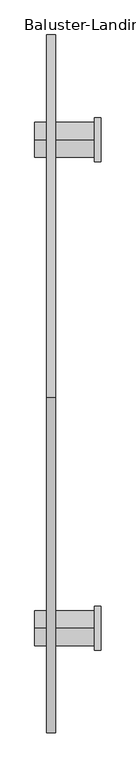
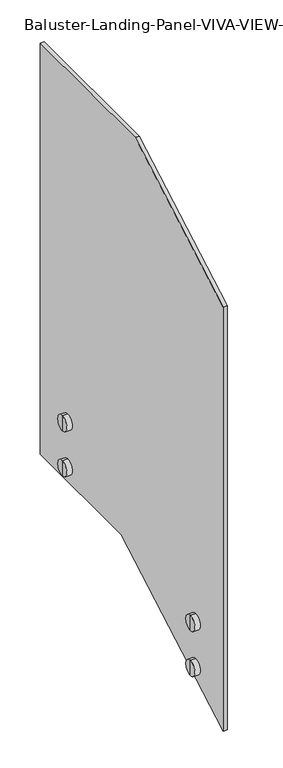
"""IFC4 building model written with IfcOpenShell, lengths in millimetres: railing geometry, Baluster-Landing-Panel-VIVA-VIEW-Lower : Standard_Glass Plate."""

import ifcopenshell
import ifcopenshell.guid

model = None  # the IFC model being written
_history = None  # IfcOwnerHistory: only IFC2X3 demands one
_inside = {}  # id of a spatial element -> (the spatial element, [elements in it])
_under = {}  # id of a project, library or spatial element -> (it, [spatial elements below it])
_declared = {}  # id of a project -> (the project, [libraries it declares])
_typed = {}  # id of a type object -> (the type object, [elements of that type])
_made_of = {}  # id of a material, layer set ... -> (it, [elements and type objects made of it])


def new_model(schema):
    """Start an empty IFC model of exactly this schema.

    Asked for "IFC4X3", IfcOpenShell would pick the latest addendum, in which some entities
    have other attributes; the version numbers below select the first issue.
    IFC2X3 requires an IfcOwnerHistory on every rooted entity: one is made here for all.
    """
    global model, _history
    if schema == "IFC4X3":
        model = ifcopenshell.file(schema_version=(4, 3, 0, 0))
    else:
        model = ifcopenshell.file(schema=schema)
    _inside.clear()
    _under.clear()
    _declared.clear()
    _typed.clear()
    _made_of.clear()
    _history = None
    if model.schema == "IFC2X3":
        org = make("IfcOrganization", Name="unknown")
        user = make(
            "IfcPersonAndOrganization",
            ThePerson=make("IfcPerson", FamilyName="unknown"),
            TheOrganization=org,
        )
        app = make(
            "IfcApplication",
            ApplicationDeveloper=org,
            Version="unknown",
            ApplicationFullName="unknown",
            ApplicationIdentifier="unknown",
        )
        _history = make(
            "IfcOwnerHistory",
            OwningUser=user,
            OwningApplication=app,
            ChangeAction="ADDED",
            CreationDate=0,
        )
    return model


def make(cls, **values):
    """One entity of the class cls with the attributes given. An attribute that is None is left unset."""
    return model.create_entity(
        cls, **{name: value for name, value in values.items() if value is not None}
    )


def rooted(cls, **values):
    """An entity with a GlobalId (a new one), such as an element, a storey or a relation."""
    return make(cls, GlobalId=ifcopenshell.guid.new(), OwnerHistory=_history, **values)


def si_unit(unit_type, name, prefix=None):
    """IfcSIUnit, for example si_unit("LENGTHUNIT", "METRE", prefix="MILLI")."""
    return make("IfcSIUnit", UnitType=unit_type, Prefix=prefix, Name=name)


def assignment(units):
    """IfcUnitAssignment: the units of a project."""
    return None if units is None else make("IfcUnitAssignment", Units=units)


def point(xyz):
    """IfcCartesianPoint."""
    return None if xyz is None else make("IfcCartesianPoint", Coordinates=xyz)


def direction(xyz):
    """IfcDirection."""
    return None if xyz is None else make("IfcDirection", DirectionRatios=xyz)


def frame(location, z_axis=None, x_axis=None):
    """IfcAxis2Placement3D, a coordinate frame: its origin and axes. An axis left out is left unset."""
    return make(
        "IfcAxis2Placement3D",
        Location=point(location),
        Axis=direction(z_axis),
        RefDirection=direction(x_axis),
    )


def frame_2d(location, x_axis=None):
    """IfcAxis2Placement2D, a coordinate frame in the plane: its origin and x axis."""
    return make(
        "IfcAxis2Placement2D", Location=point(location), RefDirection=direction(x_axis)
    )


def origin():
    """The frame at (0, 0, 0) with its axes left unset."""
    return frame((0.0, 0.0, 0.0))


def place(relative_to, where):
    """IfcLocalPlacement: puts the frame where relative to a parent placement (None: the world)."""
    return make(
        "IfcLocalPlacement", PlacementRelTo=relative_to, RelativePlacement=where
    )


def context(
    kind, dimensions, precision=None, world=None, true_north=None, identifier=None
):
    """IfcGeometricRepresentationContext, for example the 3D "Model" context."""
    return make(
        "IfcGeometricRepresentationContext",
        ContextIdentifier=identifier,
        ContextType=kind,
        CoordinateSpaceDimension=dimensions,
        Precision=precision,
        WorldCoordinateSystem=world,
        TrueNorth=true_north,
    )


def project(units=None, contexts=None):
    """IfcProject with its units and contexts."""
    return rooted(
        "IfcProject",
        Name="project",
        RepresentationContexts=contexts,
        UnitsInContext=assignment(units),
    )


def spatial(cls, under=None, at=None, **own):
    """A site, building, storey or space (cls), placed at a placement, below another one or the project."""
    s = rooted(cls, ObjectPlacement=at, **own)
    if under is not None:
        _under.setdefault(under.id(), (under, []))[1].append(s)
    return s


def polyline(points):
    """IfcPolyline through the points."""
    return make("IfcPolyline", Points=[point(p) for p in points])


def circle_curve(where, radius):
    """IfcCircle in the frame where."""
    return make("IfcCircle", Position=where, Radius=radius)


def trimmed(basis, trim1, trim2, sense, master):
    """IfcTrimmedCurve: the piece of a basis curve between two trims."""
    return make(
        "IfcTrimmedCurve",
        BasisCurve=basis,
        Trim1=trim1,
        Trim2=trim2,
        SenseAgreement=sense,
        MasterRepresentation=master,
    )


def segment(curve, same_sense, transition):
    """IfcCompositeCurveSegment."""
    return make(
        "IfcCompositeCurveSegment",
        Transition=transition,
        SameSense=same_sense,
        ParentCurve=curve,
    )


def composite_curve(segments, self_intersect=None):
    """IfcCompositeCurve: segments joined end to end."""
    return make("IfcCompositeCurve", Segments=segments, SelfIntersect=self_intersect)


def outline(outer, holes=None, kind="AREA"):
    """IfcArbitraryClosedProfileDef: a profile drawn as a closed curve; with holes, ...WithVoids."""
    if holes is None:
        return make("IfcArbitraryClosedProfileDef", ProfileType=kind, OuterCurve=outer)
    return make(
        "IfcArbitraryProfileDefWithVoids",
        ProfileType=kind,
        OuterCurve=outer,
        InnerCurves=holes,
    )


def extrude(swept, where, along, depth):
    """IfcExtrudedAreaSolid: the profile swept, set in the frame where, extruded along a direction by depth."""
    return make(
        "IfcExtrudedAreaSolid",
        SweptArea=swept,
        Position=where,
        ExtrudedDirection=direction(along),
        Depth=depth,
    )


def shape(context_of_items, identifier, shape_type, items):
    """IfcShapeRepresentation: the items that make up one representation, for example the "Body"."""
    return make(
        "IfcShapeRepresentation",
        ContextOfItems=context_of_items,
        RepresentationIdentifier=identifier,
        RepresentationType=shape_type,
        Items=items,
    )


def source(mapping_origin, context_of_items, identifier, shape_type, items):
    """IfcRepresentationMap: a shape defined once, which mapped items show again and again."""
    return make(
        "IfcRepresentationMap",
        MappingOrigin=mapping_origin,
        MappedRepresentation=shape(context_of_items, identifier, shape_type, items),
    )


def transform(
    local_origin,
    x_axis=None,
    y_axis=None,
    z_axis=None,
    scale=None,
    scale2=None,
    scale3=None,
    uniform=True,
):
    """IfcCartesianTransformationOperator3D, or its non-uniform kind. x_axis, y_axis, z_axis: its Axis1, 2, 3."""
    if uniform:
        return make(
            "IfcCartesianTransformationOperator3D",
            Axis1=direction(x_axis),
            Axis2=direction(y_axis),
            LocalOrigin=point(local_origin),
            Scale=scale,
            Axis3=direction(z_axis),
        )
    return make(
        "IfcCartesianTransformationOperator3DnonUniform",
        Axis1=direction(x_axis),
        Axis2=direction(y_axis),
        LocalOrigin=point(local_origin),
        Scale=scale,
        Axis3=direction(z_axis),
        Scale2=scale2,
        Scale3=scale3,
    )


def mapped(mapping_source, mapping_target):
    """IfcMappedItem: shows the shape of a source again, moved by a transform."""
    return make(
        "IfcMappedItem", MappingSource=mapping_source, MappingTarget=mapping_target
    )


def made_of(thing, what):
    """Note that an element or type object is made of a material, layer set ...; save() writes the relation."""
    if what is not None:
        _made_of.setdefault(what.id(), (what, []))[1].append(thing)
    return thing


def element(
    cls,
    number,
    at=None,
    inside=None,
    cuts=None,
    type_object=None,
    material=None,
    context=None,
    identifier="Body",
    shape_type=None,
    held_by="IfcProductDefinitionShape",
    body=None,
    shapes=None,
    **own,
):
    """One element of the class cls, such as IfcWall. Its Tag is "e" and its number.

    at: its placement. inside: the storey or other place that contains it. cuts: it is an
    opening in that element (IfcRelVoidsElement). A single representation is given by context,
    identifier, shape_type and body (its items); several are given by shapes. held_by: the class
    of the entity that holds the representations. save() writes the other relations.
    """
    e = rooted(cls, Tag="e%d" % number, ObjectPlacement=at, **own)
    if body is not None:
        shapes = [shape(context, identifier, shape_type, body)]
    if shapes is not None:
        e.Representation = make(held_by, Representations=shapes)
    if inside is not None:
        _inside.setdefault(inside.id(), (inside, []))[1].append(e)
    if cuts is not None:
        rooted(
            "IfcRelVoidsElement", RelatingBuildingElement=cuts, RelatedOpeningElement=e
        )
    if type_object is not None:
        _typed.setdefault(type_object.id(), (type_object, []))[1].append(e)
    return made_of(e, material)


def aggregate(whole, parts):
    """IfcRelAggregates: a whole, such as a stair, and the parts it consists of."""
    return rooted("IfcRelAggregates", RelatingObject=whole, RelatedObjects=parts)


def save(model, path):
    """Write the relations noted so far, then the file.

    IfcRelAggregates (storeys below a building ...), IfcRelContainedInSpatialStructure (elements
    in a storey), IfcRelDefinesByType, IfcRelAssociatesMaterial and IfcRelDeclares: one each for
    every whole, place, type object, material and project.
    """
    for whole, parts in _under.values():
        aggregate(whole, parts)
    for where, things in _inside.values():
        rooted(
            "IfcRelContainedInSpatialStructure",
            RelatedElements=things,
            RelatingStructure=where,
        )
    for kind, things in _typed.values():
        rooted("IfcRelDefinesByType", RelatedObjects=things, RelatingType=kind)
    for what, things in _made_of.values():
        rooted("IfcRelAssociatesMaterial", RelatedObjects=things, RelatingMaterial=what)
    for by, libraries in _declared.values():
        rooted("IfcRelDeclares", RelatingContext=by, RelatedDefinitions=libraries)
    model.write(path)


def plane_surface(at):
    """IfcPlane: the flat surface through the origin of the frame at, square to its z axis."""
    return make("IfcPlane", Position=at)


def cylinder_surface(at, radius):
    """IfcCylindricalSurface: all points at the distance radius from the z axis of the frame at."""
    return make("IfcCylindricalSurface", Position=at, Radius=radius)


def advanced_brep(points, edges, surfaces, faces):
    """IfcAdvancedBrep: a solid bounded by faces that lie on surfaces and meet in shared edges.

    An edge is (start, end): straight between two places in points (the first is 0);
    or (start, end, curve); or (start, end, curve, False) where it runs against its curve.
    A face is (place in surfaces, loops), or (place, loops, False) where it looks against
    its surface's normal. A loop lists edges by number (the first is 1), with a minus sign
    where the edge is run from its end to its start. The first loop is the outer one.
    """
    corners = [point(p) for p in points]
    vertices = [make("IfcVertexPoint", VertexGeometry=c) for c in corners]
    made = []
    for start, end, *more in edges:
        made.append(
            make(
                "IfcEdgeCurve",
                EdgeStart=vertices[start],
                EdgeEnd=vertices[end],
                EdgeGeometry=more[0] if more else make("IfcPolyline", Points=[corners[start], corners[end]]),
                SameSense=more[1] if len(more) > 1 else True,
            )
        )
    hull = []
    for where, loops, *sense in faces:
        bounds = []
        for j, loop in enumerate(loops):
            ring = [make("IfcOrientedEdge", EdgeElement=made[abs(k) - 1], Orientation=k > 0) for k in loop]
            bounds.append(
                make(
                    "IfcFaceOuterBound" if j == 0 else "IfcFaceBound",
                    Bound=make("IfcEdgeLoop", EdgeList=ring),
                    Orientation=True,
                )
            )
        hull.append(make("IfcAdvancedFace", Bounds=bounds, FaceSurface=surfaces[where], SameSense=sense[0] if sense else True))
    return make("IfcAdvancedBrep", Outer=make("IfcClosedShell", CfsFaces=hull))


def baluster_landing_panel_viva_view_lower_standard_glass_plate_9cf8be22(model_context):
    return source(origin(), model_context, "Body", "SolidModel", [
        advanced_brep(
        [(15.875, 147.3891207, -546.0690625), (15.875, 147.3891207, -495.2690625), (15.875, 147.3891207, -520.6690625), (33.3375, 147.3891207, -546.0690625), (33.3375, 147.3891207, -495.2690625), (33.3375, 147.3891207, -526.3840625), (33.3375, 147.3891207, -514.9540625), (46.0375, 147.3891207, -526.3840625), (46.0375, 147.3891207, -514.9540625), (46.0375, 147.3891207, -546.0690625), (46.0375, 147.3891207, -495.2690625), (103.187353, 147.3891207, -546.0690625), (103.187353, 147.3891207, -495.2690625), (103.187353, 147.3891207, -520.6690625)],
        [
            (0, 1, circle_curve(frame((15.875, 147.3891207, -520.6690625), z_axis=(-1.0, 0.0, 0.0), x_axis=(0.0, 0.0, 1.0)), 25.4)),
            (1, 2),
            (2, 0),
            (1, 0, circle_curve(frame((15.875, 147.3891207, -520.6690625), z_axis=(-1.0, 0.0, 0.0), x_axis=(0.0, 0.0, 1.0)), 25.4)),
            (3, 4, circle_curve(frame((33.3375, 147.3891207, -520.6690625), z_axis=(-1.0, 0.0, 0.0), x_axis=(0.0, 0.0, 1.0)), 25.4)),
            (4, 1),
            (0, 3),
            (4, 3, circle_curve(frame((33.3375, 147.3891207, -520.6690625), z_axis=(-1.0, 0.0, 0.0), x_axis=(0.0, 0.0, 1.0)), 25.4)),
            (5, 6, circle_curve(frame((33.3375, 147.3891207, -520.6690625), z_axis=(-1.0, 0.0, 0.0), x_axis=(0.0, 0.0, 1.0)), 5.715)),
            (6, 4),
            (3, 5),
            (6, 5, circle_curve(frame((33.3375, 147.3891207, -520.6690625), z_axis=(-1.0, 0.0, 0.0), x_axis=(0.0, 0.0, 1.0)), 5.715)),
            (7, 8, circle_curve(frame((46.0375, 147.3891207, -520.6690625), z_axis=(-1.0, 0.0, 0.0), x_axis=(0.0, 0.0, 1.0)), 5.715)),
            (8, 6),
            (5, 7),
            (8, 7, circle_curve(frame((46.0375, 147.3891207, -520.6690625), z_axis=(-1.0, 0.0, 0.0), x_axis=(0.0, 0.0, 1.0)), 5.715)),
            (9, 10, circle_curve(frame((46.0375, 147.3891207, -520.6690625), z_axis=(-1.0, 0.0, 0.0), x_axis=(0.0, 0.0, 1.0)), 25.4)),
            (10, 8),
            (7, 9),
            (10, 9, circle_curve(frame((46.0375, 147.3891207, -520.6690625), z_axis=(-1.0, 0.0, 0.0), x_axis=(0.0, 0.0, 1.0)), 25.4)),
            (11, 12, circle_curve(frame((103.187353, 147.3891207, -520.6690625), z_axis=(-1.0, 0.0, 0.0), x_axis=(0.0, 0.0, 1.0)), 25.4)),
            (12, 10),
            (9, 11),
            (12, 11, circle_curve(frame((103.187353, 147.3891207, -520.6690625), z_axis=(-1.0, 0.0, 0.0), x_axis=(0.0, 0.0, 1.0)), 25.4)),
            (13, 12),
            (11, 13),
        ],
        [
            plane_surface(frame((15.875, 147.3891207, -520.6690625), z_axis=(-1.0, 0.0, 0.0), x_axis=(0.0, 0.0, 1.0))),
            cylinder_surface(frame((-52.387647, 147.3891207, -520.6690625), z_axis=(1.0, 0.0, 0.0), x_axis=(0.0, 0.0, 1.0)), 25.4),
            plane_surface(frame((33.3375, 147.3891207, -520.6690625), z_axis=(1.0, 0.0, 0.0), x_axis=(0.0, 0.0, 1.0))),
            cylinder_surface(frame((-52.387647, 147.3891207, -520.6690625), z_axis=(1.0, 0.0, 0.0), x_axis=(0.0, 0.0, 1.0)), 5.715),
            plane_surface(frame((46.0375, 147.3891207, -520.6690625), z_axis=(-1.0, 0.0, 0.0), x_axis=(0.0, 0.0, 1.0))),
            plane_surface(frame((103.187353, 147.3891207, -520.6690625), z_axis=(1.0, 0.0, 0.0), x_axis=(0.0, 0.0, 1.0))),
        ],
        [
            (0, [[1, 2, 3]]),
            (0, [[4, -3, -2]]),
            (1, [[5, 6, -1, 7]]),
            (1, [[8, -7, -4, -6]]),
            (2, [[9, 10, -5, 11]]),
            (2, [[12, -11, -8, -10]]),
            (3, [[13, 14, -9, 15]]),
            (3, [[16, -15, -12, -14]]),
            (4, [[17, 18, -13, 19]]),
            (4, [[20, -19, -16, -18]]),
            (1, [[21, 22, -17, 23]]),
            (1, [[24, -23, -20, -22]]),
            (5, [[25, -21, 26]]),
            (5, [[-26, -24, -25]]),
        ],
    ),
        advanced_brep(
        [(33.3375, 147.3891207, -373.9840625), (33.3375, 147.3891207, -362.5540625), (33.3375, 147.3891207, -342.8690625), (33.3375, 147.3891207, -393.6690625), (46.0375, 147.3891207, -373.9840625), (46.0375, 147.3891207, -362.5540625), (46.0375, 147.3891207, -393.6690625), (46.0375, 147.3891207, -342.8690625), (103.187353, 147.3891207, -393.6690625), (103.187353, 147.3891207, -342.8690625), (103.187353, 147.3891207, -368.2690625), (15.875, 147.3891207, -393.6690625), (15.875, 147.3891207, -342.8690625), (15.875, 147.3891207, -368.2690625)],
        [
            (0, 1, circle_curve(frame((33.3375, 147.3891207, -368.2690625), z_axis=(-1.0, 0.0, 0.0), x_axis=(0.0, 0.0, 1.0)), 5.715)),
            (1, 2),
            (2, 3, circle_curve(frame((33.3375, 147.3891207, -368.2690625), z_axis=(1.0, 0.0, 0.0), x_axis=(0.0, 0.0, 1.0)), 25.4)),
            (3, 0),
            (1, 0, circle_curve(frame((33.3375, 147.3891207, -368.2690625), z_axis=(-1.0, 0.0, 0.0), x_axis=(0.0, 0.0, 1.0)), 5.715)),
            (3, 2, circle_curve(frame((33.3375, 147.3891207, -368.2690625), z_axis=(1.0, 0.0, 0.0), x_axis=(0.0, 0.0, 1.0)), 25.4)),
            (4, 5, circle_curve(frame((46.0375, 147.3891207, -368.2690625), z_axis=(-1.0, 0.0, 0.0), x_axis=(0.0, 0.0, 1.0)), 5.715)),
            (5, 1),
            (0, 4),
            (5, 4, circle_curve(frame((46.0375, 147.3891207, -368.2690625), z_axis=(-1.0, 0.0, 0.0), x_axis=(0.0, 0.0, 1.0)), 5.715)),
            (6, 7, circle_curve(frame((46.0375, 147.3891207, -368.2690625), z_axis=(-1.0, 0.0, 0.0), x_axis=(0.0, 0.0, 1.0)), 25.4)),
            (7, 5),
            (4, 6),
            (7, 6, circle_curve(frame((46.0375, 147.3891207, -368.2690625), z_axis=(-1.0, 0.0, 0.0), x_axis=(0.0, 0.0, 1.0)), 25.4)),
            (8, 9, circle_curve(frame((103.187353, 147.3891207, -368.2690625), z_axis=(-1.0, 0.0, 0.0), x_axis=(0.0, 0.0, 1.0)), 25.4)),
            (9, 7),
            (6, 8),
            (9, 8, circle_curve(frame((103.187353, 147.3891207, -368.2690625), z_axis=(-1.0, 0.0, 0.0), x_axis=(0.0, 0.0, 1.0)), 25.4)),
            (10, 9),
            (8, 10),
            (11, 12, circle_curve(frame((15.875, 147.3891207, -368.2690625), z_axis=(-1.0, 0.0, 0.0), x_axis=(0.0, 0.0, 1.0)), 25.4)),
            (12, 13),
            (13, 11),
            (12, 11, circle_curve(frame((15.875, 147.3891207, -368.2690625), z_axis=(-1.0, 0.0, 0.0), x_axis=(0.0, 0.0, 1.0)), 25.4)),
            (2, 12),
            (11, 3),
        ],
        [
            plane_surface(frame((33.3375, 147.3891207, -368.2690625), z_axis=(1.0, 0.0, 0.0), x_axis=(0.0, 0.0, 1.0))),
            cylinder_surface(frame((-52.387647, 147.3891207, -368.2690625), z_axis=(1.0, 0.0, 0.0), x_axis=(0.0, 0.0, 1.0)), 5.715),
            plane_surface(frame((46.0375, 147.3891207, -368.2690625), z_axis=(-1.0, 0.0, 0.0), x_axis=(0.0, 0.0, 1.0))),
            cylinder_surface(frame((-52.387647, 147.3891207, -368.2690625), z_axis=(1.0, 0.0, 0.0), x_axis=(0.0, 0.0, 1.0)), 25.4),
            plane_surface(frame((103.187353, 147.3891207, -368.2690625), z_axis=(1.0, 0.0, 0.0), x_axis=(0.0, 0.0, 1.0))),
            plane_surface(frame((15.875, 147.3891207, -368.2690625), z_axis=(-1.0, 0.0, 0.0), x_axis=(0.0, 0.0, 1.0))),
        ],
        [
            (0, [[1, 2, 3, 4]]),
            (0, [[5, -4, 6, -2]]),
            (1, [[7, 8, -1, 9]]),
            (1, [[10, -9, -5, -8]]),
            (2, [[11, 12, -7, 13]]),
            (2, [[14, -13, -10, -12]]),
            (3, [[15, 16, -11, 17]]),
            (3, [[18, -17, -14, -16]]),
            (4, [[19, -15, 20]]),
            (4, [[-20, -18, -19]]),
            (5, [[21, 22, 23]]),
            (5, [[24, -23, -22]]),
            (3, [[-3, 25, -21, 26]]),
            (3, [[-6, -26, -24, -25]]),
        ],
    ),
        extrude(outline(composite_curve([segment(polyline([(179.1391207, -368.2690625), (179.1391207, -520.6690625)]), True, "CONTINUOUS"), segment(trimmed(circle_curve(frame_2d((147.3891207, -520.6690625)), 31.75), [point((179.1391207, -520.6690625))], [point((115.6391207, -520.6690625))], False, "CARTESIAN"), True, "CONTINUOUS"), segment(polyline([(115.6391207, -520.6690625), (115.6391207, -368.2690625)]), True, "CONTINUOUS"), segment(trimmed(circle_curve(frame_2d((147.3891207, -368.2690625)), 31.75), [point((115.6391207, -368.2690625))], [point((179.1391207, -368.2690625))], False, "CARTESIAN"), True, "CONTINUOUS")], self_intersect=False)), frame((103.187353, 0.0, 0.0), z_axis=(1.0, 0.0, 0.0), x_axis=(0.0, 1.0, 0.0)), (0.0, 0.0, 1.0), 9.525),
        advanced_brep(
        [(15.875, 858.1688714, -300.2438244), (15.875, 858.1688714, -274.8438244), (15.875, 858.1688714, -249.4438244), (33.3375, 858.1688714, -300.2438244), (33.3375, 858.1688714, -249.4438244), (33.3375, 858.1688714, -280.5588244), (33.3375, 858.1688714, -269.1288244), (46.0375, 858.1688714, -280.5588244), (46.0375, 858.1688714, -269.1288244), (46.0375, 858.1688714, -300.2438244), (46.0375, 858.1688714, -249.4438244), (103.187353, 858.1688714, -300.2438244), (103.187353, 858.1688714, -249.4438244), (103.187353, 858.1688714, -274.8438244)],
        [
            (0, 1),
            (1, 2),
            (2, 0, circle_curve(frame((15.875, 858.1688714, -274.8438244), z_axis=(-1.0, 0.0, 0.0), x_axis=(0.0, 0.0, 1.0)), 25.4)),
            (0, 2, circle_curve(frame((15.875, 858.1688714, -274.8438244), z_axis=(-1.0, 0.0, 0.0), x_axis=(0.0, 0.0, 1.0)), 25.4)),
            (3, 0),
            (2, 4),
            (4, 3, circle_curve(frame((33.3375, 858.1688714, -274.8438244), z_axis=(-1.0, 0.0, 0.0), x_axis=(0.0, 0.0, 1.0)), 25.4)),
            (3, 4, circle_curve(frame((33.3375, 858.1688714, -274.8438244), z_axis=(-1.0, 0.0, 0.0), x_axis=(0.0, 0.0, 1.0)), 25.4)),
            (5, 3),
            (4, 6),
            (6, 5, circle_curve(frame((33.3375, 858.1688714, -274.8438244), z_axis=(-1.0, 0.0, 0.0), x_axis=(0.0, 0.0, 1.0)), 5.715)),
            (5, 6, circle_curve(frame((33.3375, 858.1688714, -274.8438244), z_axis=(-1.0, 0.0, 0.0), x_axis=(0.0, 0.0, 1.0)), 5.715)),
            (7, 5),
            (6, 8),
            (8, 7, circle_curve(frame((46.0375, 858.1688714, -274.8438244), z_axis=(-1.0, 0.0, 0.0), x_axis=(0.0, 0.0, 1.0)), 5.715)),
            (7, 8, circle_curve(frame((46.0375, 858.1688714, -274.8438244), z_axis=(-1.0, 0.0, 0.0), x_axis=(0.0, 0.0, 1.0)), 5.715)),
            (9, 7),
            (8, 10),
            (10, 9, circle_curve(frame((46.0375, 858.1688714, -274.8438244), z_axis=(-1.0, 0.0, 0.0), x_axis=(0.0, 0.0, 1.0)), 25.4)),
            (9, 10, circle_curve(frame((46.0375, 858.1688714, -274.8438244), z_axis=(-1.0, 0.0, 0.0), x_axis=(0.0, 0.0, 1.0)), 25.4)),
            (11, 9),
            (10, 12),
            (12, 11, circle_curve(frame((103.187353, 858.1688714, -274.8438244), z_axis=(-1.0, 0.0, 0.0), x_axis=(0.0, 0.0, 1.0)), 25.4)),
            (11, 12, circle_curve(frame((103.187353, 858.1688714, -274.8438244), z_axis=(-1.0, 0.0, 0.0), x_axis=(0.0, 0.0, 1.0)), 25.4)),
            (13, 11),
            (12, 13),
        ],
        [
            plane_surface(frame((15.875, 858.1688714, -274.8438244), z_axis=(-1.0, 0.0, 0.0), x_axis=(0.0, 0.0, 1.0))),
            cylinder_surface(frame((-52.387647, 858.1688714, -274.8438244), z_axis=(1.0, 0.0, 0.0), x_axis=(0.0, 0.0, 1.0)), 25.4),
            plane_surface(frame((33.3375, 858.1688714, -274.8438244), z_axis=(1.0, 0.0, 0.0), x_axis=(0.0, 0.0, 1.0))),
            cylinder_surface(frame((-52.387647, 858.1688714, -274.8438244), z_axis=(1.0, 0.0, 0.0), x_axis=(0.0, 0.0, 1.0)), 5.715),
            plane_surface(frame((46.0375, 858.1688714, -274.8438244), z_axis=(-1.0, 0.0, 0.0), x_axis=(0.0, 0.0, 1.0))),
            plane_surface(frame((103.187353, 858.1688714, -274.8438244), z_axis=(1.0, 0.0, 0.0), x_axis=(0.0, 0.0, 1.0))),
        ],
        [
            (0, [[1, 2, 3]]),
            (0, [[-2, -1, 4]]),
            (1, [[5, -3, 6, 7]]),
            (1, [[-6, -4, -5, 8]]),
            (2, [[9, -7, 10, 11]]),
            (2, [[-10, -8, -9, 12]]),
            (3, [[13, -11, 14, 15]]),
            (3, [[-14, -12, -13, 16]]),
            (4, [[17, -15, 18, 19]]),
            (4, [[-18, -16, -17, 20]]),
            (1, [[21, -19, 22, 23]]),
            (1, [[-22, -20, -21, 24]]),
            (5, [[25, -23, 26]]),
            (5, [[-26, -24, -25]]),
        ],
    ),
        advanced_brep(
        [(33.3375, 858.1688714, -128.1588244), (33.3375, 858.1688714, -147.8438244), (33.3375, 858.1688714, -97.0438244), (33.3375, 858.1688714, -116.7288244), (46.0375, 858.1688714, -128.1588244), (46.0375, 858.1688714, -116.7288244), (46.0375, 858.1688714, -147.8438244), (46.0375, 858.1688714, -97.0438244), (103.187353, 858.1688714, -147.8438244), (103.187353, 858.1688714, -97.0438244), (103.187353, 858.1688714, -122.4438244), (15.875, 858.1688714, -147.8438244), (15.875, 858.1688714, -122.4438244), (15.875, 858.1688714, -97.0438244)],
        [
            (0, 1),
            (1, 2, circle_curve(frame((33.3375, 858.1688714, -122.4438244), z_axis=(1.0, 0.0, 0.0), x_axis=(0.0, 0.0, 1.0)), 25.4)),
            (2, 3),
            (3, 0, circle_curve(frame((33.3375, 858.1688714, -122.4438244), z_axis=(-1.0, 0.0, 0.0), x_axis=(0.0, 0.0, 1.0)), 5.715)),
            (2, 1, circle_curve(frame((33.3375, 858.1688714, -122.4438244), z_axis=(1.0, 0.0, 0.0), x_axis=(0.0, 0.0, 1.0)), 25.4)),
            (0, 3, circle_curve(frame((33.3375, 858.1688714, -122.4438244), z_axis=(-1.0, 0.0, 0.0), x_axis=(0.0, 0.0, 1.0)), 5.715)),
            (4, 0),
            (3, 5),
            (5, 4, circle_curve(frame((46.0375, 858.1688714, -122.4438244), z_axis=(-1.0, 0.0, 0.0), x_axis=(0.0, 0.0, 1.0)), 5.715)),
            (4, 5, circle_curve(frame((46.0375, 858.1688714, -122.4438244), z_axis=(-1.0, 0.0, 0.0), x_axis=(0.0, 0.0, 1.0)), 5.715)),
            (6, 4),
            (5, 7),
            (7, 6, circle_curve(frame((46.0375, 858.1688714, -122.4438244), z_axis=(-1.0, 0.0, 0.0), x_axis=(0.0, 0.0, 1.0)), 25.4)),
            (6, 7, circle_curve(frame((46.0375, 858.1688714, -122.4438244), z_axis=(-1.0, 0.0, 0.0), x_axis=(0.0, 0.0, 1.0)), 25.4)),
            (8, 6),
            (7, 9),
            (9, 8, circle_curve(frame((103.187353, 858.1688714, -122.4438244), z_axis=(-1.0, 0.0, 0.0), x_axis=(0.0, 0.0, 1.0)), 25.4)),
            (8, 9, circle_curve(frame((103.187353, 858.1688714, -122.4438244), z_axis=(-1.0, 0.0, 0.0), x_axis=(0.0, 0.0, 1.0)), 25.4)),
            (10, 8),
            (9, 10),
            (11, 12),
            (12, 13),
            (13, 11, circle_curve(frame((15.875, 858.1688714, -122.4438244), z_axis=(-1.0, 0.0, 0.0), x_axis=(0.0, 0.0, 1.0)), 25.4)),
            (11, 13, circle_curve(frame((15.875, 858.1688714, -122.4438244), z_axis=(-1.0, 0.0, 0.0), x_axis=(0.0, 0.0, 1.0)), 25.4)),
            (1, 11),
            (13, 2),
        ],
        [
            plane_surface(frame((33.3375, 858.1688714, -122.4438244), z_axis=(1.0, 0.0, 0.0), x_axis=(0.0, 0.0, 1.0))),
            cylinder_surface(frame((-52.387647, 858.1688714, -122.4438244), z_axis=(1.0, 0.0, 0.0), x_axis=(0.0, 0.0, 1.0)), 5.715),
            plane_surface(frame((46.0375, 858.1688714, -122.4438244), z_axis=(-1.0, 0.0, 0.0), x_axis=(0.0, 0.0, 1.0))),
            cylinder_surface(frame((-52.387647, 858.1688714, -122.4438244), z_axis=(1.0, 0.0, 0.0), x_axis=(0.0, 0.0, 1.0)), 25.4),
            plane_surface(frame((103.187353, 858.1688714, -122.4438244), z_axis=(1.0, 0.0, 0.0), x_axis=(0.0, 0.0, 1.0))),
            plane_surface(frame((15.875, 858.1688714, -122.4438244), z_axis=(-1.0, 0.0, 0.0), x_axis=(0.0, 0.0, 1.0))),
        ],
        [
            (0, [[1, 2, 3, 4]]),
            (0, [[-3, 5, -1, 6]]),
            (1, [[7, -4, 8, 9]]),
            (1, [[-8, -6, -7, 10]]),
            (2, [[11, -9, 12, 13]]),
            (2, [[-12, -10, -11, 14]]),
            (3, [[15, -13, 16, 17]]),
            (3, [[-16, -14, -15, 18]]),
            (4, [[19, -17, 20]]),
            (4, [[-20, -18, -19]]),
            (5, [[21, 22, 23]]),
            (5, [[-22, -21, 24]]),
            (3, [[25, -23, 26, -2]]),
            (3, [[-26, -24, -25, -5]]),
        ],
    ),
        extrude(outline(composite_curve([segment(trimmed(circle_curve(frame_2d((858.1688714, -122.4438244)), 31.75), [point((826.4188714, -122.4438244))], [point((889.9188714, -122.4438244))], False, "CARTESIAN"), True, "CONTINUOUS"), segment(polyline([(889.9188714, -122.4438244), (889.9188714, -274.8438244)]), True, "CONTINUOUS"), segment(trimmed(circle_curve(frame_2d((858.1688714, -274.8438244)), 31.75), [point((889.9188714, -274.8438244))], [point((826.4188714, -274.8438244))], False, "CARTESIAN"), True, "CONTINUOUS"), segment(polyline([(826.4188714, -274.8438244), (826.4188714, -122.4438244)]), True, "CONTINUOUS")], self_intersect=False)), frame((103.187353, 0.0, 0.0), z_axis=(1.0, 0.0, 0.0), x_axis=(0.0, 1.0, 0.0)), (0.0, 0.0, 1.0), 9.525),
        extrude(outline(polyline([(483.5416293, 1066.8), (1010.5688714, 1066.8), (1010.5688714, -325.6438244), (561.0684305, -325.6438244), (-5.0108793, -649.0537444), (-5.0108793, 787.6823482), (483.5416293, 1066.8)])), frame((33.3375, 0.0, 0.0), z_axis=(1.0, 0.0, 0.0), x_axis=(0.0, 1.0, 0.0)), (0.0, 0.0, 1.0), 12.7),
    ])


if __name__ == "__main__":
    model = new_model("IFC4")
    model_context = context("Model", 3, world=origin())
    ifc_project = project(units=[si_unit("LENGTHUNIT", "METRE", prefix="MILLI")], contexts=[model_context])
    site = spatial("IfcSite", under=ifc_project)
    building = spatial("IfcBuilding", under=site)
    placement = place(None, origin())
    baluster_landing_panel_viva_view_lower_standard_glass_plate_shape = baluster_landing_panel_viva_view_lower_standard_glass_plate_9cf8be22(model_context)
    element("IfcRailing", 1, ObjectType="Baluster-Landing-Panel-VIVA-VIEW-Lower : Standard_Glass Plate", at=placement, inside=building, context=model_context, shape_type="MappedRepresentation", body=[
        mapped(baluster_landing_panel_viva_view_lower_standard_glass_plate_shape, transform((0.0, 0.0, 0.0), x_axis=(1.0, 0.0, 0.0), y_axis=(0.0, 1.0, 0.0), z_axis=(0.0, 0.0, 1.0))),
    ])
    save(model, "model.ifc")
